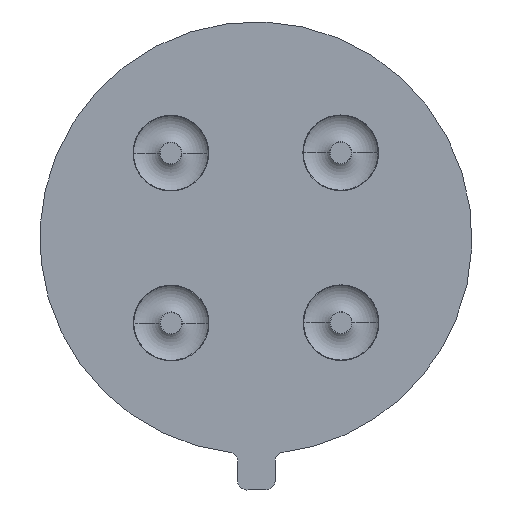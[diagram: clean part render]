
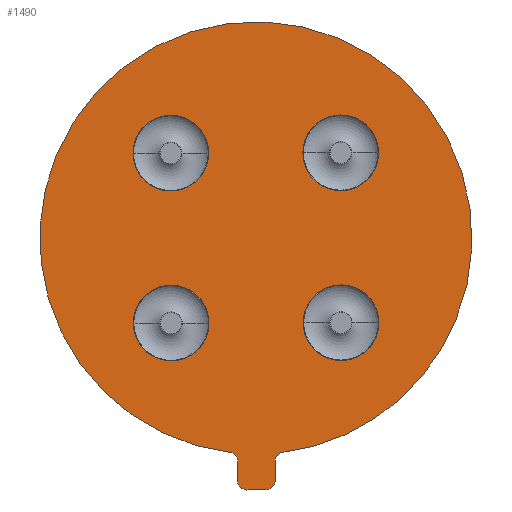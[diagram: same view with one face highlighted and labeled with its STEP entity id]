
A CAD part, front view. The second image highlights one B-rep face of the part: STEP entity #1490.
In plain terms, the highlighted planar face has unit normal (0, -1, 0).
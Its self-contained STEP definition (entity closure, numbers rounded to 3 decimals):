
#986=CARTESIAN_POINT('',(0.,0.,0.));
#987=DIRECTION('',(0.,-1.,0.));
#988=DIRECTION('',(0.,0.,1.));
#989=AXIS2_PLACEMENT_3D('',#986,#987,#988);
#991=CARTESIAN_POINT('',(0.,0.,0.));
#992=DIRECTION('',(0.,-1.,0.));
#993=DIRECTION('',(0.,0.,-1.));
#994=AXIS2_PLACEMENT_3D('',#991,#992,#993);
#996=CARTESIAN_POINT('',(0.,0.,0.));
#997=DIRECTION('',(0.,-1.,0.));
#998=DIRECTION('',(-0.874,0.,-0.486));
#999=AXIS2_PLACEMENT_3D('',#996,#997,#998);
#1001=CARTESIAN_POINT('',(-4.135,0.,-2.362));
#1002=DIRECTION('',(0.,1.,0.));
#1003=DIRECTION('',(0.,0.,1.));
#1004=AXIS2_PLACEMENT_3D('',#1001,#1002,#1003);
#1006=CARTESIAN_POINT('',(-4.135,0.,-2.362));
#1007=DIRECTION('',(0.,1.,0.));
#1008=DIRECTION('',(-0.382,0.,0.924));
#1009=AXIS2_PLACEMENT_3D('',#1006,#1007,#1008);
#1011=DIRECTION('',(0.924,0.,0.382));
#1012=VECTOR('',#1011,0.406);
#1013=CARTESIAN_POINT('',(-4.586,0.,-2.333));
#1014=LINE('',#1013,#1012);
#1015=CARTESIAN_POINT('',(-4.663,0.,-2.148));
#1016=DIRECTION('',(0.,-1.,0.));
#1017=DIRECTION('',(0.,0.,-1.));
#1018=AXIS2_PLACEMENT_3D('',#1015,#1016,#1017);
#1020=CARTESIAN_POINT('',(-4.663,0.,-2.148));
#1021=DIRECTION('',(0.,-1.,0.));
#1022=DIRECTION('',(-0.924,0.,-0.383));
#1023=AXIS2_PLACEMENT_3D('',#1020,#1021,#1022);
#1025=DIRECTION('',(0.383,0.,-0.924));
#1026=VECTOR('',#1025,0.399);
#1027=CARTESIAN_POINT('',(-5.,0.,-1.856));
#1028=LINE('',#1027,#1026);
#1029=CARTESIAN_POINT('',(-4.816,0.,-1.78));
#1030=DIRECTION('',(0.,-1.,0.));
#1031=DIRECTION('',(-0.376,0.,0.927));
#1032=AXIS2_PLACEMENT_3D('',#1029,#1030,#1031);
#1034=DIRECTION('',(-0.927,0.,-0.376));
#1035=VECTOR('',#1034,0.403);
#1036=CARTESIAN_POINT('',(-4.517,0.,-1.443));
#1037=LINE('',#1036,#1035);
#1038=CARTESIAN_POINT('',(-4.592,0.,-1.257));
#1039=DIRECTION('',(0.,1.,0.));
#1040=DIRECTION('',(1.,0.,-0.022));
#1041=AXIS2_PLACEMENT_3D('',#1038,#1039,#1040);
#1043=CARTESIAN_POINT('',(2.347,0.,-0.972));
#1044=DIRECTION('',(0.,1.,0.));
#1045=DIRECTION('',(0.,0.,1.));
#1046=AXIS2_PLACEMENT_3D('',#1043,#1044,#1045);
#1048=CARTESIAN_POINT('',(2.347,0.,-0.972));
#1049=DIRECTION('',(0.,1.,0.));
#1050=DIRECTION('',(0.,0.,-1.));
#1051=AXIS2_PLACEMENT_3D('',#1048,#1049,#1050);
#1053=CARTESIAN_POINT('',(0.972,0.,2.347));
#1054=DIRECTION('',(0.,1.,0.));
#1055=DIRECTION('',(0.,0.,1.));
#1056=AXIS2_PLACEMENT_3D('',#1053,#1054,#1055);
#1058=CARTESIAN_POINT('',(0.972,0.,2.347));
#1059=DIRECTION('',(0.,1.,0.));
#1060=DIRECTION('',(0.,0.,-1.));
#1061=AXIS2_PLACEMENT_3D('',#1058,#1059,#1060);
#1063=CARTESIAN_POINT('',(-2.347,0.,0.972));
#1064=DIRECTION('',(0.,1.,0.));
#1065=DIRECTION('',(0.,0.,1.));
#1066=AXIS2_PLACEMENT_3D('',#1063,#1064,#1065);
#1068=CARTESIAN_POINT('',(-2.347,0.,0.972));
#1069=DIRECTION('',(0.,1.,0.));
#1070=DIRECTION('',(0.,0.,-1.));
#1071=AXIS2_PLACEMENT_3D('',#1068,#1069,#1070);
#1073=CARTESIAN_POINT('',(-0.972,0.,-2.347));
#1074=DIRECTION('',(0.,1.,0.));
#1075=DIRECTION('',(0.,0.,1.));
#1076=AXIS2_PLACEMENT_3D('',#1073,#1074,#1075);
#1078=CARTESIAN_POINT('',(-0.972,0.,-2.347));
#1079=DIRECTION('',(0.,1.,0.));
#1080=DIRECTION('',(0.,0.,-1.));
#1081=AXIS2_PLACEMENT_3D('',#1078,#1079,#1080);
#1160=CARTESIAN_POINT('',(-4.586,0.,-2.333));
#1162=VERTEX_POINT('',#1160);
#1164=CARTESIAN_POINT('',(-5.,0.,-1.856));
#1166=VERTEX_POINT('',#1164);
#1167=CARTESIAN_POINT('',(-4.891,0.,-1.594));
#1169=VERTEX_POINT('',#1167);
#1176=CARTESIAN_POINT('',(0.,0.,4.57));
#1178=VERTEX_POINT('',#1176);
#1183=CARTESIAN_POINT('',(-4.392,0.,
-1.262));
#1184=VERTEX_POINT('',#1183);
#1201=CARTESIAN_POINT('',(-3.995,0.,
-2.219));
#1202=CARTESIAN_POINT('',(0.,0.,-4.57));
#1203=VERTEX_POINT('',#1201);
#1204=VERTEX_POINT('',#1202);
#1205=CARTESIAN_POINT('',(2.347,0.,-0.172));
#1206=CARTESIAN_POINT('',(2.347,0.,-1.772));
#1207=VERTEX_POINT('',#1205);
#1208=VERTEX_POINT('',#1206);
#1209=CARTESIAN_POINT('',(0.972,0.,3.147));
#1210=CARTESIAN_POINT('',(0.972,0.,1.547));
#1211=VERTEX_POINT('',#1209);
#1212=VERTEX_POINT('',#1210);
#1213=CARTESIAN_POINT('',(-2.347,0.,1.772));
#1214=CARTESIAN_POINT('',(-2.347,0.,0.172));
#1215=VERTEX_POINT('',#1213);
#1216=VERTEX_POINT('',#1214);
#1217=CARTESIAN_POINT('',(-4.211,0.,-2.177));
#1218=VERTEX_POINT('',#1217);
#1223=CARTESIAN_POINT('',(-0.972,0.,-1.547));
#1224=CARTESIAN_POINT('',(-0.972,0.,-3.147));
#1225=VERTEX_POINT('',#1223);
#1226=VERTEX_POINT('',#1224);
#1235=CARTESIAN_POINT('',(-4.517,0.,-1.443));
#1236=VERTEX_POINT('',#1235);
#1245=CARTESIAN_POINT('',(-4.135,0.,-2.162));
#1246=VERTEX_POINT('',#1245);
#1247=CARTESIAN_POINT('',(-4.663,0.,-2.348));
#1248=VERTEX_POINT('',#1247);
#1249=CARTESIAN_POINT('',(-4.848,0.,-2.225));
#1250=VERTEX_POINT('',#1249);
#1437=CARTESIAN_POINT('',(0.,0.,0.));
#1438=DIRECTION('',(0.,-1.,0.));
#1439=DIRECTION('',(0.,0.,-1.));
#1440=AXIS2_PLACEMENT_3D('',#1437,#1438,#1439);
#1441=PLANE('',#1440);
#1442=ORIENTED_EDGE('',*,*,#1427,.F.);
#1444=ORIENTED_EDGE('',*,*,#1443,.F.);
#1446=ORIENTED_EDGE('',*,*,#1445,.F.);
#1448=ORIENTED_EDGE('',*,*,#1447,.F.);
#1450=ORIENTED_EDGE('',*,*,#1449,.F.);
#1452=ORIENTED_EDGE('',*,*,#1451,.F.);
#1454=ORIENTED_EDGE('',*,*,#1453,.F.);
#1456=ORIENTED_EDGE('',*,*,#1455,.F.);
#1458=ORIENTED_EDGE('',*,*,#1457,.F.);
#1460=ORIENTED_EDGE('',*,*,#1459,.F.);
#1462=ORIENTED_EDGE('',*,*,#1461,.F.);
#1464=ORIENTED_EDGE('',*,*,#1463,.F.);
#1465=EDGE_LOOP('',(#1442,#1444,#1446,#1448,#1450,#1452,#1454,#1456,#1458,#1460,
#1462,#1464));
#1466=FACE_OUTER_BOUND('',#1465,.F.);
#1468=ORIENTED_EDGE('',*,*,#1467,.F.);
#1469=ORIENTED_EDGE('',*,*,#1260,.F.);
#1470=EDGE_LOOP('',(#1468,#1469));
#1471=FACE_BOUND('',#1470,.F.);
#1473=ORIENTED_EDGE('',*,*,#1472,.F.);
#1475=ORIENTED_EDGE('',*,*,#1474,.F.);
#1476=EDGE_LOOP('',(#1473,#1475));
#1477=FACE_BOUND('',#1476,.F.);
#1479=ORIENTED_EDGE('',*,*,#1478,.F.);
#1481=ORIENTED_EDGE('',*,*,#1480,.F.);
#1482=EDGE_LOOP('',(#1479,#1481));
#1483=FACE_BOUND('',#1482,.F.);
#1485=ORIENTED_EDGE('',*,*,#1484,.F.);
#1487=ORIENTED_EDGE('',*,*,#1486,.F.);
#1488=EDGE_LOOP('',(#1485,#1487));
#1489=FACE_BOUND('',#1488,.F.);
#990=CIRCLE('',#989,4.57);
#995=CIRCLE('',#994,4.57);
#1000=CIRCLE('',#999,4.57);
#1005=CIRCLE('',#1004,0.2);
#1010=CIRCLE('',#1009,0.2);
#1019=CIRCLE('',#1018,0.2);
#1024=CIRCLE('',#1023,0.2);
#1033=CIRCLE('',#1032,0.2);
#1042=CIRCLE('',#1041,0.2);
#1047=CIRCLE('',#1046,0.8);
#1052=CIRCLE('',#1051,0.8);
#1057=CIRCLE('',#1056,0.8);
#1062=CIRCLE('',#1061,0.8);
#1067=CIRCLE('',#1066,0.8);
#1072=CIRCLE('',#1071,0.8);
#1077=CIRCLE('',#1076,0.8);
#1082=CIRCLE('',#1081,0.8);
#1260=EDGE_CURVE('',#1208,#1207,#1052,.T.);
#1427=EDGE_CURVE('',#1178,#1184,#990,.T.);
#1443=EDGE_CURVE('',#1204,#1178,#995,.T.);
#1445=EDGE_CURVE('',#1203,#1204,#1000,.T.);
#1447=EDGE_CURVE('',#1246,#1203,#1005,.T.);
#1449=EDGE_CURVE('',#1218,#1246,#1010,.T.);
#1451=EDGE_CURVE('',#1162,#1218,#1014,.T.);
#1453=EDGE_CURVE('',#1248,#1162,#1019,.T.);
#1455=EDGE_CURVE('',#1250,#1248,#1024,.T.);
#1457=EDGE_CURVE('',#1166,#1250,#1028,.T.);
#1459=EDGE_CURVE('',#1169,#1166,#1033,.T.);
#1461=EDGE_CURVE('',#1236,#1169,#1037,.T.);
#1463=EDGE_CURVE('',#1184,#1236,#1042,.T.);
#1467=EDGE_CURVE('',#1207,#1208,#1047,.T.);
#1472=EDGE_CURVE('',#1211,#1212,#1057,.T.);
#1474=EDGE_CURVE('',#1212,#1211,#1062,.T.);
#1478=EDGE_CURVE('',#1215,#1216,#1067,.T.);
#1480=EDGE_CURVE('',#1216,#1215,#1072,.T.);
#1484=EDGE_CURVE('',#1225,#1226,#1077,.T.);
#1486=EDGE_CURVE('',#1226,#1225,#1082,.T.);
#1490=ADVANCED_FACE('',(#1466,#1471,#1477,#1483,#1489),#1441,.T.);
